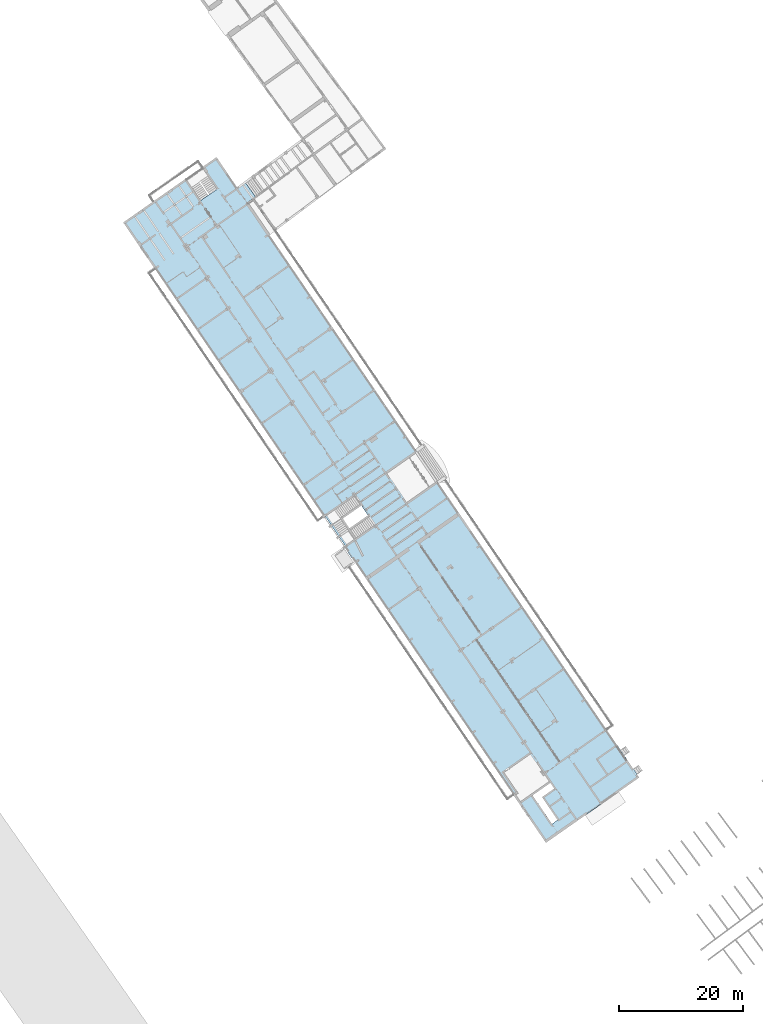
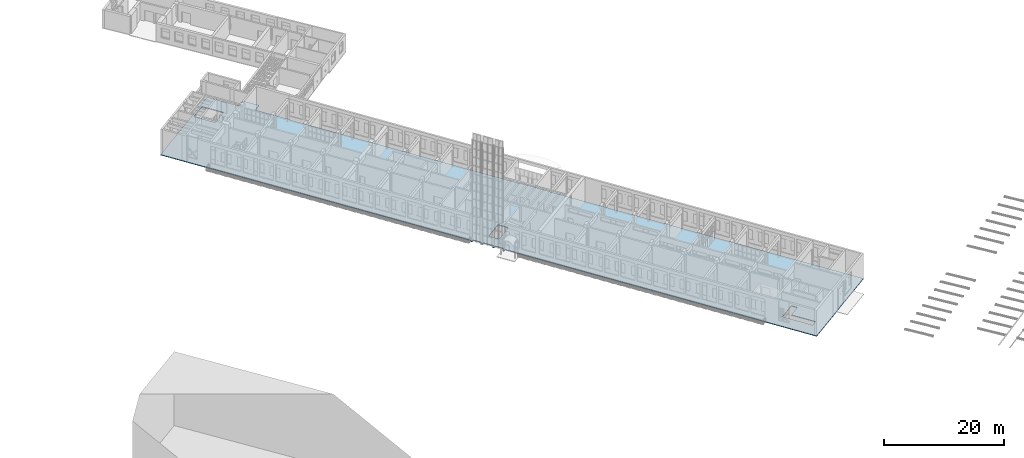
# One storey, part 45 of 157: 1 slab, 3 openings.
"""IFC2X3 building model written with IfcOpenShell, lengths in millimetres."""

import ifcopenshell
import ifcopenshell.guid

model = None  # the IFC model being written
_history = None  # IfcOwnerHistory: only IFC2X3 demands one
_inside = {}  # id of a spatial element -> (the spatial element, [elements in it])
_under = {}  # id of a project, library or spatial element -> (it, [spatial elements below it])
_declared = {}  # id of a project -> (the project, [libraries it declares])
_typed = {}  # id of a type object -> (the type object, [elements of that type])
_made_of = {}  # id of a material, layer set ... -> (it, [elements and type objects made of it])


def new_model(schema):
    """Start an empty IFC model of exactly this schema.

    Asked for "IFC4X3", IfcOpenShell would pick the latest addendum, in which some entities
    have other attributes; the version numbers below select the first issue.
    IFC2X3 requires an IfcOwnerHistory on every rooted entity: one is made here for all.
    """
    global model, _history
    if schema == "IFC4X3":
        model = ifcopenshell.file(schema_version=(4, 3, 0, 0))
    else:
        model = ifcopenshell.file(schema=schema)
    _inside.clear()
    _under.clear()
    _declared.clear()
    _typed.clear()
    _made_of.clear()
    _history = None
    if model.schema == "IFC2X3":
        org = make("IfcOrganization", Name="unknown")
        user = make(
            "IfcPersonAndOrganization",
            ThePerson=make("IfcPerson", FamilyName="unknown"),
            TheOrganization=org,
        )
        app = make(
            "IfcApplication",
            ApplicationDeveloper=org,
            Version="unknown",
            ApplicationFullName="unknown",
            ApplicationIdentifier="unknown",
        )
        _history = make(
            "IfcOwnerHistory",
            OwningUser=user,
            OwningApplication=app,
            ChangeAction="ADDED",
            CreationDate=0,
        )
    return model


def make(cls, **values):
    """One entity of the class cls with the attributes given. An attribute that is None is left unset."""
    return model.create_entity(
        cls, **{name: value for name, value in values.items() if value is not None}
    )


def entity(cls, *values):
    """Any entity or typed value of the class cls, its attributes in the order of the schema. None: left unset."""
    e = model.create_entity(cls)
    for i, value in enumerate(values):
        if value is not None:
            e[i] = value
    return e


def rooted(cls, **values):
    """An entity with a GlobalId (a new one), such as an element, a storey or a relation."""
    return make(cls, GlobalId=ifcopenshell.guid.new(), OwnerHistory=_history, **values)


def si_unit(unit_type, name, prefix=None):
    """IfcSIUnit, for example si_unit("LENGTHUNIT", "METRE", prefix="MILLI")."""
    return make("IfcSIUnit", UnitType=unit_type, Prefix=prefix, Name=name)


def converted_unit(unit_type, name, factor, base, dimensions=None, offset=None):
    """IfcConversionBasedUnit, such as the inch: factor (a typed value) times the base unit."""
    return make(
        "IfcConversionBasedUnit"
        if offset is None
        else "IfcConversionBasedUnitWithOffset",
        ConversionOffset=offset,
        Dimensions=None
        if dimensions is None
        else entity("IfcDimensionalExponents", *dimensions),
        UnitType=unit_type,
        Name=name,
        ConversionFactor=make(
            "IfcMeasureWithUnit", ValueComponent=factor, UnitComponent=base
        ),
    )


def derived_unit(unit_type, elements):
    """IfcDerivedUnit: a product of units, each with its exponent."""
    return make(
        "IfcDerivedUnit",
        Elements=[
            make("IfcDerivedUnitElement", Unit=unit, Exponent=power)
            for unit, power in elements
        ],
        UnitType=unit_type,
    )


def assignment(units):
    """IfcUnitAssignment: the units of a project."""
    return None if units is None else make("IfcUnitAssignment", Units=units)


def point(xyz):
    """IfcCartesianPoint."""
    return None if xyz is None else make("IfcCartesianPoint", Coordinates=xyz)


def direction(xyz):
    """IfcDirection."""
    return None if xyz is None else make("IfcDirection", DirectionRatios=xyz)


def frame(location, z_axis=None, x_axis=None):
    """IfcAxis2Placement3D, a coordinate frame: its origin and axes. An axis left out is left unset."""
    return make(
        "IfcAxis2Placement3D",
        Location=point(location),
        Axis=direction(z_axis),
        RefDirection=direction(x_axis),
    )


def origin():
    """The frame at (0, 0, 0) with its axes left unset."""
    return frame((0.0, 0.0, 0.0))


def place(relative_to, where):
    """IfcLocalPlacement: puts the frame where relative to a parent placement (None: the world)."""
    return make(
        "IfcLocalPlacement", PlacementRelTo=relative_to, RelativePlacement=where
    )


def context(
    kind, dimensions, precision=None, world=None, true_north=None, identifier=None
):
    """IfcGeometricRepresentationContext, for example the 3D "Model" context."""
    return make(
        "IfcGeometricRepresentationContext",
        ContextIdentifier=identifier,
        ContextType=kind,
        CoordinateSpaceDimension=dimensions,
        Precision=precision,
        WorldCoordinateSystem=world,
        TrueNorth=true_north,
    )


def subcontext(parent, identifier, kind, view, scale=None):
    """IfcGeometricRepresentationSubContext, for example "Body" below "Model"."""
    return make(
        "IfcGeometricRepresentationSubContext",
        ContextIdentifier=identifier,
        ContextType=kind,
        ParentContext=parent,
        TargetScale=scale,
        TargetView=view,
    )


def project(units=None, contexts=None):
    """IfcProject with its units and contexts."""
    return rooted(
        "IfcProject",
        Name="project",
        RepresentationContexts=contexts,
        UnitsInContext=assignment(units),
    )


def spatial(cls, under=None, at=None, **own):
    """A site, building, storey or space (cls), placed at a placement, below another one or the project."""
    s = rooted(cls, ObjectPlacement=at, **own)
    if under is not None:
        _under.setdefault(under.id(), (under, []))[1].append(s)
    return s


def polyline(points):
    """IfcPolyline through the points."""
    return make("IfcPolyline", Points=[point(p) for p in points])


def outline(outer, holes=None, kind="AREA"):
    """IfcArbitraryClosedProfileDef: a profile drawn as a closed curve; with holes, ...WithVoids."""
    if holes is None:
        return make("IfcArbitraryClosedProfileDef", ProfileType=kind, OuterCurve=outer)
    return make(
        "IfcArbitraryProfileDefWithVoids",
        ProfileType=kind,
        OuterCurve=outer,
        InnerCurves=holes,
    )


def extrude(swept, where, along, depth):
    """IfcExtrudedAreaSolid: the profile swept, set in the frame where, extruded along a direction by depth."""
    return make(
        "IfcExtrudedAreaSolid",
        SweptArea=swept,
        Position=where,
        ExtrudedDirection=direction(along),
        Depth=depth,
    )


def shape(context_of_items, identifier, shape_type, items):
    """IfcShapeRepresentation: the items that make up one representation, for example the "Body"."""
    return make(
        "IfcShapeRepresentation",
        ContextOfItems=context_of_items,
        RepresentationIdentifier=identifier,
        RepresentationType=shape_type,
        Items=items,
    )


def material(Name=None, Category=None):
    """IfcMaterial."""
    return make("IfcMaterial", Name=Name, Category=Category)


def layer(
    of_material, thickness, ventilated=None, Name=None, Category=None, Priority=None
):
    """IfcMaterialLayer: one layer of a wall or slab, of a material (None: an air gap)."""
    return make(
        "IfcMaterialLayer",
        Material=of_material,
        LayerThickness=thickness,
        IsVentilated=ventilated,
        Name=Name,
        Category=Category,
        Priority=Priority,
    )


def layer_set(layers, Name=None):
    """IfcMaterialLayerSet."""
    return make("IfcMaterialLayerSet", MaterialLayers=layers, LayerSetName=Name)


def layer_usage(for_layer_set, set_direction, sense, offset, extent=None):
    """IfcMaterialLayerSetUsage: how a layer set lies in its element."""
    return make(
        "IfcMaterialLayerSetUsage",
        ForLayerSet=for_layer_set,
        LayerSetDirection=set_direction,
        DirectionSense=sense,
        OffsetFromReferenceLine=offset,
        ReferenceExtent=extent,
    )


def made_of(thing, what):
    """Note that an element or type object is made of a material, layer set ...; save() writes the relation."""
    if what is not None:
        _made_of.setdefault(what.id(), (what, []))[1].append(thing)
    return thing


def type_object(cls, material=None, **own):
    """A type object (cls), such as IfcWallType, which elements share."""
    return made_of(rooted(cls, **own), material)


def element(
    cls,
    number,
    at=None,
    inside=None,
    cuts=None,
    type_object=None,
    material=None,
    context=None,
    identifier="Body",
    shape_type=None,
    held_by="IfcProductDefinitionShape",
    body=None,
    shapes=None,
    **own,
):
    """One element of the class cls, such as IfcWall. Its Tag is "e" and its number.

    at: its placement. inside: the storey or other place that contains it. cuts: it is an
    opening in that element (IfcRelVoidsElement). A single representation is given by context,
    identifier, shape_type and body (its items); several are given by shapes. held_by: the class
    of the entity that holds the representations. save() writes the other relations.
    """
    e = rooted(cls, Tag="e%d" % number, ObjectPlacement=at, **own)
    if body is not None:
        shapes = [shape(context, identifier, shape_type, body)]
    if shapes is not None:
        e.Representation = make(held_by, Representations=shapes)
    if inside is not None:
        _inside.setdefault(inside.id(), (inside, []))[1].append(e)
    if cuts is not None:
        rooted(
            "IfcRelVoidsElement", RelatingBuildingElement=cuts, RelatedOpeningElement=e
        )
    if type_object is not None:
        _typed.setdefault(type_object.id(), (type_object, []))[1].append(e)
    return made_of(e, material)


def aggregate(whole, parts):
    """IfcRelAggregates: a whole, such as a stair, and the parts it consists of."""
    return rooted("IfcRelAggregates", RelatingObject=whole, RelatedObjects=parts)


def save(model, path):
    """Write the relations noted so far, then the file.

    IfcRelAggregates (storeys below a building ...), IfcRelContainedInSpatialStructure (elements
    in a storey), IfcRelDefinesByType, IfcRelAssociatesMaterial and IfcRelDeclares: one each for
    every whole, place, type object, material and project.
    """
    for whole, parts in _under.values():
        aggregate(whole, parts)
    for where, things in _inside.values():
        rooted(
            "IfcRelContainedInSpatialStructure",
            RelatedElements=things,
            RelatingStructure=where,
        )
    for kind, things in _typed.values():
        rooted("IfcRelDefinesByType", RelatedObjects=things, RelatingType=kind)
    for what, things in _made_of.values():
        rooted("IfcRelAssociatesMaterial", RelatedObjects=things, RelatingMaterial=what)
    for by, libraries in _declared.values():
        rooted("IfcRelDeclares", RelatingContext=by, RelatedDefinitions=libraries)
    model.write(path)


model = new_model("IFC2X3")

# Units and contexts
model_context = context("Model", 3, precision=0.01, world=origin(), true_north=direction((6.123031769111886e-17, 1.0)))
body_context = subcontext(model_context, "Body", "Model", "MODEL_VIEW")
ifc_project = project(units=[si_unit("LENGTHUNIT", "METRE", prefix="MILLI"), si_unit("AREAUNIT", "SQUARE_METRE"), si_unit("VOLUMEUNIT", "CUBIC_METRE"), converted_unit("PLANEANGLEUNIT", "DEGREE", entity("IfcRatioMeasure", 0.017453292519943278), si_unit("PLANEANGLEUNIT", "RADIAN"), dimensions=[0, 0, 0, 0, 0, 0, 0]), si_unit("MASSUNIT", "GRAM", prefix="KILO"), derived_unit("MASSDENSITYUNIT", [(si_unit("MASSUNIT", "GRAM", prefix="KILO"), 1), (si_unit("LENGTHUNIT", "METRE"), -3)]), derived_unit("MOMENTOFINERTIAUNIT", [(si_unit("LENGTHUNIT", "METRE"), 4)]), si_unit("TIMEUNIT", "SECOND"), si_unit("FREQUENCYUNIT", "HERTZ"), si_unit("THERMODYNAMICTEMPERATUREUNIT", "DEGREE_CELSIUS"), derived_unit("THERMALTRANSMITTANCEUNIT", [(si_unit("MASSUNIT", "GRAM", prefix="KILO"), 1), (si_unit("THERMODYNAMICTEMPERATUREUNIT", "KELVIN"), -1), (si_unit("TIMEUNIT", "SECOND"), -3)]), derived_unit("THERMALCONDUCTANCEUNIT", [(si_unit("MASSUNIT", "GRAM", prefix="KILO"), 1), (si_unit("LENGTHUNIT", "METRE"), 1), (si_unit("THERMODYNAMICTEMPERATUREUNIT", "KELVIN"), -1), (si_unit("TIMEUNIT", "SECOND"), -3)]), derived_unit("VOLUMETRICFLOWRATEUNIT", [(si_unit("LENGTHUNIT", "METRE"), 3), (si_unit("TIMEUNIT", "SECOND"), -1)]), derived_unit("MASSFLOWRATEUNIT", [(si_unit("MASSUNIT", "GRAM", prefix="KILO"), 1), (si_unit("TIMEUNIT", "SECOND"), -1)]), derived_unit("ROTATIONALFREQUENCYUNIT", [(si_unit("TIMEUNIT", "SECOND"), -1)]), si_unit("ELECTRICCURRENTUNIT", "AMPERE"), si_unit("ELECTRICVOLTAGEUNIT", "VOLT"), si_unit("POWERUNIT", "WATT"), converted_unit("FORCEUNIT", "KIP", entity("IfcRatioMeasure", 2.088543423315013e-05), si_unit("FORCEUNIT", "NEWTON"), dimensions=[1, 1, -2, 0, 0, 0, 0]), si_unit("ILLUMINANCEUNIT", "LUX"), si_unit("LUMINOUSFLUXUNIT", "LUMEN"), si_unit("LUMINOUSINTENSITYUNIT", "CANDELA"), derived_unit("USERDEFINED", [(si_unit("MASSUNIT", "GRAM", prefix="KILO"), -1), (si_unit("LENGTHUNIT", "METRE"), -2), (si_unit("TIMEUNIT", "SECOND"), 3), (si_unit("LUMINOUSFLUXUNIT", "LUMEN"), 1)]), derived_unit("USERDEFINED", [(si_unit("MASSUNIT", "GRAM", prefix="KILO"), 1), (si_unit("LENGTHUNIT", "METRE"), 3), (si_unit("TIMEUNIT", "SECOND"), -3), (si_unit("ELECTRICCURRENTUNIT", "AMPERE"), -2)]), derived_unit("USERDEFINED", [(si_unit("LENGTHUNIT", "METRE"), 2), (si_unit("TIMEUNIT", "SECOND"), -2)]), derived_unit("SOUNDPOWERUNIT", [(si_unit("MASSUNIT", "GRAM", prefix="KILO"), 1), (si_unit("LENGTHUNIT", "METRE"), 2), (si_unit("TIMEUNIT", "SECOND"), -3)]), derived_unit("SOUNDPRESSUREUNIT", [(si_unit("MASSUNIT", "GRAM", prefix="KILO"), 1), (si_unit("LENGTHUNIT", "METRE"), -1), (si_unit("TIMEUNIT", "SECOND"), -2)]), derived_unit("LINEARVELOCITYUNIT", [(si_unit("LENGTHUNIT", "METRE"), 1), (si_unit("TIMEUNIT", "SECOND"), -1)]), si_unit("PRESSUREUNIT", "PASCAL"), derived_unit("USERDEFINED", [(si_unit("LENGTHUNIT", "METRE"), -2), (si_unit("MASSUNIT", "GRAM", prefix="KILO"), 1), (si_unit("TIMEUNIT", "SECOND"), -2)]), derived_unit("LINEARFORCEUNIT", [(si_unit("MASSUNIT", "GRAM", prefix="KILO"), 1), (si_unit("LENGTHUNIT", "METRE"), 1), (si_unit("TIMEUNIT", "SECOND"), -2), (si_unit("LENGTHUNIT", "METRE"), -1)]), derived_unit("PLANARFORCEUNIT", [(si_unit("MASSUNIT", "GRAM", prefix="KILO"), 1), (si_unit("LENGTHUNIT", "METRE"), 1), (si_unit("TIMEUNIT", "SECOND"), -2), (si_unit("LENGTHUNIT", "METRE"), -2)]), derived_unit("SPECIFICHEATCAPACITYUNIT", [(si_unit("LENGTHUNIT", "METRE"), 2), (si_unit("TIMEUNIT", "SECOND"), -2), (si_unit("THERMODYNAMICTEMPERATUREUNIT", "KELVIN"), -1)]), derived_unit("VAPORPERMEABILITYUNIT", [(si_unit("TIMEUNIT", "SECOND"), 1), (si_unit("LENGTHUNIT", "METRE"), -1)]), derived_unit("DYNAMICVISCOSITYUNIT", [(si_unit("MASSUNIT", "GRAM", prefix="KILO"), 1), (si_unit("LENGTHUNIT", "METRE"), -1), (si_unit("TIMEUNIT", "SECOND"), -1)]), derived_unit("THERMALEXPANSIONCOEFFICIENTUNIT", [(si_unit("THERMODYNAMICTEMPERATUREUNIT", "KELVIN"), -1)])], contexts=[model_context])

# Site, building, storey
site_placement = place(None, frame((0.0, 0.0, 0.0), z_axis=(0.0, 0.0, 1.0), x_axis=(0.8191520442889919, 0.5735764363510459, 0.0)))
site = spatial("IfcSite", under=ifc_project, at=site_placement, Name="Default", CompositionType="ELEMENT")
building_placement = place(site_placement, origin())
building = spatial("IfcBuilding", under=site, at=building_placement, CompositionType="ELEMENT")
storey_placement = place(building_placement, origin())
storey = spatial("IfcBuildingStorey", under=building, at=storey_placement, Name="1.EG +0.00", CompositionType="ELEMENT", Elevation=-4.331468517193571e-12)

# Slab, openings
ifc_material = material(Name="Analytical Floor Surface_CJC")
ifc_layer = layer(ifc_material, 150.0)
ifc_layer_set = layer_set([ifc_layer], Name="Floor:Boden_CJC")
ifc_layer_usage = layer_usage(ifc_layer_set, "AXIS3", "POSITIVE", 0.0)
slab_type = type_object("IfcSlabType", Name="Floor:Boden_CJC", PredefinedType="FLOOR", material=ifc_layer_set)
slab_placement = place(storey_placement, frame((-223908.27381672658, 52071.358914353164, -150.0)))
slab = element("IfcSlab", 1, at=slab_placement, inside=storey, type_object=slab_type, material=ifc_layer_usage, Name="Floor:Boden_CJC", ObjectType="Floor:Boden_CJC", PredefinedType="FLOOR", context=body_context, shape_type="SweptSolid", body=[
    extrude(outline(polyline([(9963.86504999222, -3025.0), (10167.47956844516, -3025.0), (10167.47956844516, -2675.0), (9734.391101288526, -2675.0), (9715.663650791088, -1101.1269680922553), (10137.479568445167, -1101.1269680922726), (10137.479568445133, -801.1269680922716), (9712.093963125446, -801.1269680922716), (9687.90578672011, 1098.8730319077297), (10107.479568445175, 1098.8730319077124), (10107.479568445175, 1398.8730319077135), (9684.086600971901, 1398.8730319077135), (9664.02152879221, 2975.0), (10077.479568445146, 2975.0), (10077.479568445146, 3325.0), (9882.650812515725, 3325.0), (9155.470733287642, 60475.0), (-9196.016186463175, 60475.0), (-9121.54206437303, 54625.0), (-10656.320502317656, 54671.96174347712), (-10695.239120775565, 51673.42549359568), (-9183.405379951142, 51629.33388663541), (-9102.510775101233, 45275.0), (-9002.511510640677, 45275.0), (-8464.444559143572, 2974.999282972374), (-8564.005584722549, 2974.9992829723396), (-8490.168981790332, -2675.0218738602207), (-8392.574828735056, -2675.021873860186), (-7656.247798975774, -60475.0), (10695.239120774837, -60475.0), (9963.86504999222, -3025.0)])), frame((10695.239120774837, 60475.0, 150.0), z_axis=(0.0, 0.0, -1.0), x_axis=(-1.0, 0.0, 0.0)), (0.0, 0.0, 1.0), 150.0),
])
opening_1_placement = place(slab_placement, frame((15411.418130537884, 118634.98894523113, 150.0)))
element("IfcOpeningElement", 2, at=opening_1_placement, cuts=slab, Name="Floor:Boden_CJC:2", ObjectType="Opening", context=body_context, shape_type="SweptSolid", body=[
    extrude(outline(polyline([(-1599.9929103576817, -1965.1702816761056), (1599.9929103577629, -1965.170281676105), (1599.9929103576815, 1944.8013812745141), (-1599.9929103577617, 1985.539182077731), (-1599.9929103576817, -1965.1702816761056)])), frame((0.0, 0.0, 0.0), z_axis=(0.0, 0.0, -1.0), x_axis=(-0.9999189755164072, 0.012729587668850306, 0.0)), (0.0, 0.0, 1.0), 149.99999999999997),
])
opening_2_placement = place(slab_placement, frame((4125.901071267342, 5275.652887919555, 150.0)))
element("IfcOpeningElement", 3, at=opening_2_placement, cuts=slab, Name="Floor:Boden_CJC:3", ObjectType="Opening", context=body_context, shape_type="SweptSolid", body=[
    extrude(outline(polyline([(-3361.4837682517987, -1533.420290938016), (2205.0060112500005, -1533.4202909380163), (2249.5638285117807, 1966.639500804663), (1149.4745994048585, 1966.6320072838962), (1118.9231322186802, -433.2153920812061), (-3361.4838031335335, -433.2155341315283), (-3361.4837682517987, -1533.420290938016)])), frame((0.0, 0.0, 0.0), z_axis=(0.0, 0.0, -1.0), x_axis=(0.01272955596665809, 0.9999189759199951, 0.0)), (0.0, 0.0, 1.0), 150.0),
])
opening_3_placement = place(slab_placement, frame((4972.3028403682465, 60625.0, 150.0)))
element("IfcOpeningElement", 4, at=opening_3_placement, cuts=slab, Name="Floor:Boden_CJC:4", ObjectType="Opening", context=body_context, shape_type="SweptSolid", body=[
    extrude(outline(polyline([(-1813.234671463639, -950.0), (1837.4228478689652, -950.0), (1813.234671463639, 950.0), (-1837.4228478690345, 950.0), (-1813.234671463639, -950.0)])), frame((0.0, 0.0, 0.0), z_axis=(0.0, 0.0, -1.0), x_axis=(1.0, 0.0, 0.0)), (0.0, 0.0, 1.0), 150.0),
])

save(model, "model.ifc")
